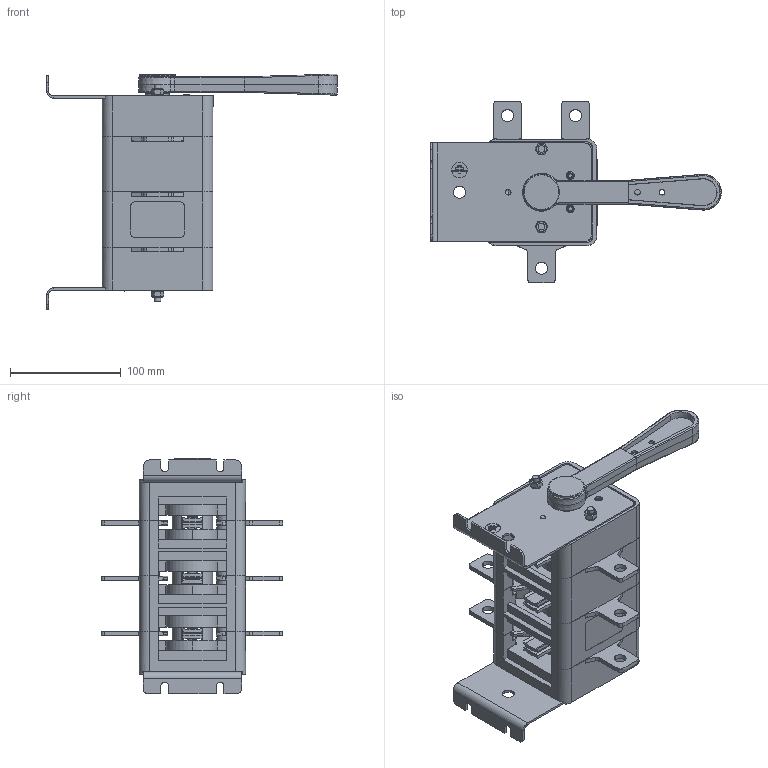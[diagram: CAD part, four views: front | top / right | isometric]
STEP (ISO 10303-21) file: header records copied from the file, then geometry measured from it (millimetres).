
FILE_DESCRIPTION (( 'STEP AP214' ), '1' );
FILE_NAME ('ﾂﾐ32-37 ﾃﾆﾈﾊ.642523.011-05 (ﾀ70220-400ﾀ).STEP', '2023-04-18T13:25:01', ( '' ), ( '' ), 'SwSTEP 2.0', 'SolidWorks 2018', '' );
FILE_SCHEMA (( 'AUTOMOTIVE_DESIGN' ));
Length unit declared in the file: millimetre
Products named in the file (26): 想囫蜩磬_闷仁.745355.029; Êîðïóñ ëåâûé ÃÆÈÊ.735384.062; Ïëàñòèíà_ÃÆÈÊ.745355.027_2 ­ ¯à ¢«¥­¨ï; ﾂ鏆鮏 ﾃﾆﾈﾊ.745485.016; ﾘ琺矜 6 65ﾃ 016; Çàãëóøêà ÃÆÈÊ.735211.002_â¥å­®«®£¨ç¥áª ï; ﾂ鏆鮏 ﾃﾆﾈﾊ.745485.017; 暑痫篑 镳噔 闷仁.735384.060; ﾂ琿 ﾃﾆﾈﾊ.715274.007; Òàáëè÷êà äëÿ ñáîðêè ÷èñòàÿ; 务黖闷仁.715411.019; ﾏ跖浯_ﾃﾆﾈﾊ.753553.011_-01 (癸ｮ爼); Ãàéêà 2Ì6-6Í.5.016; Ðóêîÿòêà ÃÆÈÊ.303658.015_2 ­ ¯à ¢«¥­¨ï; ﾂﾐ32-37 ﾃﾆﾈﾊ.642523.011-05 (ﾀ70220-400ﾀ); Áîêîâèíà ëåâàÿ ÃÆÈÊ.735224.034; 澡犟囹铕_闷仁.745484.006; Òàáëè÷êà äëÿ ñáîðêè ÷èñòàÿ áîëüøàÿ; Êîíòàêò ïîäâèæíûé ÃÆÈÊ.685179.159; Øïèëüêà Ì6 ÃÆÈÊ.758292.005; 想囫蜩磬_闷仁.745355.007; Áîêîâèíà ïðàâàÿ ÃÆÈÊ.735224.034; Îáîëî÷êà 100-400À_2 ­ ¯à ¢«¥­¨ï; Êîðïóñ ñðåäíèé ÃÆÈÊ.735384.061; Ïëàñòèíà_ÃÆÈÊ.301714.003ÑÁ_2 ­ ¯à ¢«¥­¨ï; Êîíòàêò ïîäâèæíûé_ÃÆÈÊ.745355.031
Assembly tree (48 placements, depth 4):
  ﾂﾐ32-37 ﾃﾆﾈﾊ.642523.011-05 (ﾀ70220-400ﾀ)
    Êîðïóñ ëåâûé ÃÆÈÊ.735384.062
    Êîðïóñ ñðåäíèé ÃÆÈÊ.735384.061  x2
    Áîêîâèíà ëåâàÿ ÃÆÈÊ.735224.034
    暑痫篑 镳噔 闷仁.735384.060
    ﾂ鏆鮏 ﾃﾆﾈﾊ.745485.016  x6
    ﾂ鏆鮏 ﾃﾆﾈﾊ.745485.017  x3
    Êîíòàêò ïîäâèæíûé ÃÆÈÊ.685179.159  x3
      Êîíòàêò ïîäâèæíûé_ÃÆÈÊ.745355.031
      想囫蜩磬_闷仁.745355.007
      澡犟囹铕_闷仁.745484.006
      务黖闷仁.715411.019
      ﾏ跖浯_ﾃﾆﾈﾊ.753553.011_-01 (癸ｮ爼)
    ﾂ琿 ﾃﾆﾈﾊ.715274.007
    Áîêîâèíà ïðàâàÿ ÃÆÈÊ.735224.034
    Ðóêîÿòêà ÃÆÈÊ.303658.015_2 ­ ¯à ¢«¥­¨ï
      Îáîëî÷êà 100-400À_2 ­ ¯à ¢«¥­¨ï
      Ïëàñòèíà_ÃÆÈÊ.301714.003ÑÁ_2 ­ ¯à ¢«¥­¨ï
        Ïëàñòèíà_ÃÆÈÊ.745355.027_2 ­ ¯à ¢«¥­¨ï
        想囫蜩磬_闷仁.745355.029
    Øïèëüêà Ì6 ÃÆÈÊ.758292.005  x2
    Ãàéêà 2Ì6-6Í.5.016  x4
    ﾘ琺矜 6 65ﾃ 016  x4
    Òàáëè÷êà äëÿ ñáîðêè ÷èñòàÿ
    Òàáëè÷êà äëÿ ñáîðêè ÷èñòàÿ áîëüøàÿ
    Çàãëóøêà ÃÆÈÊ.735211.002_â¥å­®«®£¨ç¥áª ï
Bounding box: 262.29 x 163.75 x 212.98 mm (x, y, z)
Volume: 841688.7 mm3; surface area: 446147.9 mm2
Topology: 65 solids, 65 shells, 2304 faces, 5749 edges, 3668 vertices
Faces by surface type: plane 1316, cylinder 783, cone 100, bspline 74, torus 27, sphere 4
Entity records: 40597 total; most frequent: CARTESIAN_POINT 8619, DIRECTION 6423, ORIENTED_EDGE 6056, EDGE_CURVE 3028, AXIS2_PLACEMENT_3D 2258, VERTEX_POINT 1970, VECTOR 1907, LINE 1907
